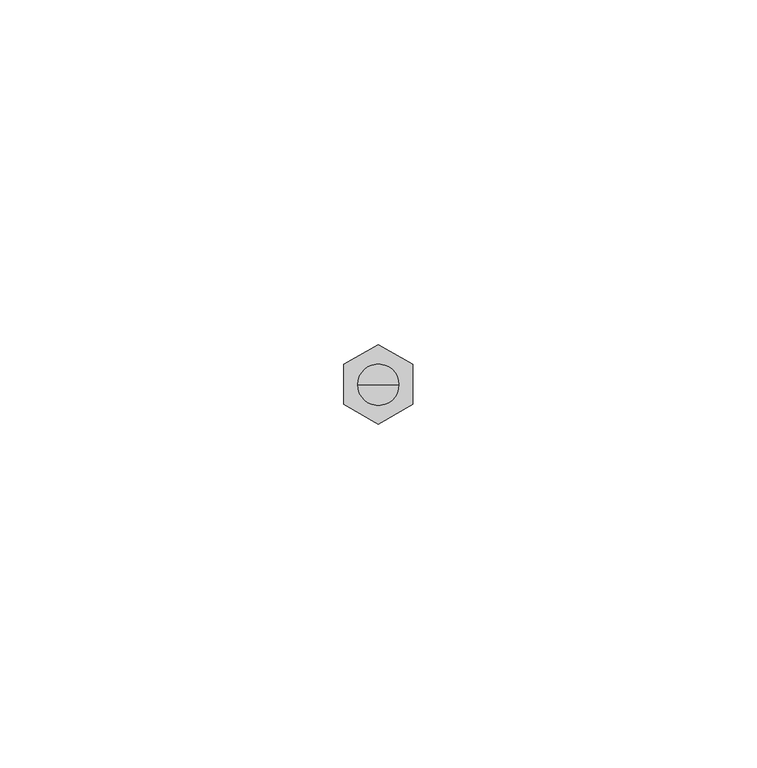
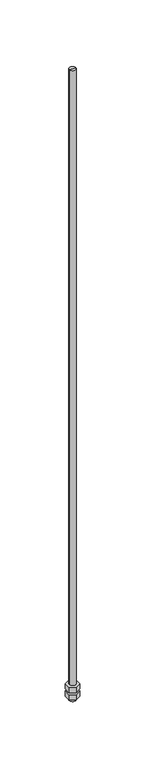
"""IFC4 building model written with IfcOpenShell, lengths in millimetres: proxy geometry, durlum_threaded_rod_M6 : durlum_threaded_rod_M6."""

from ifc_helpers import new_model, si_unit, frame, origin, origin_with_axes, place, context, project, spatial, polyline, circle_curve, outline, extrude, source, transform, mapped, element, save
from ifc_brep_helpers import plane_surface, cylinder_surface, advanced_brep


def generic_models_b1cdc258(model_context):
    return source(origin(), model_context, "Body", "SolidModel", [
        extrude(outline(polyline([(5.0, 3.0421914), (5.0, -2.7313113), (0.0, -5.6180626), (-5.0, -2.7313113), (-5.0, 3.0421914), (0.0, 5.9289428), (5.0, 3.0421914)])), frame((0.0, 0.0, -7.0), z_axis=(0.0, 0.0, 1.0), x_axis=(1.0, 0.0, 0.0)), (0.0, 0.0, 1.0), 5.0),
        extrude(outline(polyline([(5.0, 3.0421914), (5.0, -2.7313113), (0.0, -5.6180626), (-5.0, -2.7313113), (-5.0, 3.0421914), (0.0, 5.9289428), (5.0, 3.0421914)])), origin_with_axes(), (0.0, 0.0, 1.0), 5.0),
        advanced_brep(
        [(-3.0, 0.0, 598.0), (3.0, 0.0, 598.0), (3.0, 0.0, -10.0), (-3.0, 0.0, -10.0), (0.0, 0.0, 598.0), (0.0, 0.0, -10.0)],
        [
            (0, 1, circle_curve(frame((0.0, 0.0, 598.0), z_axis=(0.0, 0.0, -1.0), x_axis=(1.0, 0.0, 0.0)), 3.0)),
            (1, 2),
            (2, 3, circle_curve(frame((0.0, 0.0, -10.0), z_axis=(0.0, 0.0, 1.0), x_axis=(1.0, 0.0, 0.0)), 3.0)),
            (3, 0),
            (1, 0, circle_curve(frame((0.0, 0.0, 598.0), z_axis=(0.0, 0.0, -1.0), x_axis=(1.0, 0.0, 0.0)), 3.0)),
            (3, 2, circle_curve(frame((0.0, 0.0, -10.0), z_axis=(0.0, 0.0, 1.0), x_axis=(1.0, 0.0, 0.0)), 3.0)),
            (4, 1),
            (0, 4),
            (2, 5),
            (5, 3),
        ],
        [
            cylinder_surface(frame((0.0, 0.0, -675.0), z_axis=(0.0, 0.0, 1.0), x_axis=(1.0, 0.0, 0.0)), 3.0),
            plane_surface(frame((0.0, 0.0, 598.0), z_axis=(0.0, 0.0, 1.0), x_axis=(1.0, 0.0, 0.0))),
            plane_surface(frame((0.0, 0.0, -10.0), z_axis=(0.0, 0.0, -1.0), x_axis=(1.0, 0.0, 0.0))),
        ],
        [
            (0, [[1, 2, 3, 4]]),
            (0, [[5, -4, 6, -2]]),
            (1, [[7, -1, 8]]),
            (1, [[-8, -5, -7]]),
            (2, [[-3, 9, 10]]),
            (2, [[-6, -10, -9]]),
        ],
    ),
    ])


if __name__ == "__main__":
    model = new_model("IFC4")
    model_context = context("Model", 3, world=origin())
    ifc_project = project(units=[si_unit("LENGTHUNIT", "METRE", prefix="MILLI")], contexts=[model_context])
    site = spatial("IfcSite", under=ifc_project)
    building = spatial("IfcBuilding", under=site)
    placement = place(None, origin())
    generic_models_shape = generic_models_b1cdc258(model_context)
    element("IfcBuildingElementProxy", 1, Name="durlum_threaded_rod_M6 : durlum_threaded_rod_M6", ObjectType="durlum_threaded_rod_M6 : durlum_threaded_rod_M6", at=placement, inside=building, context=model_context, shape_type="MappedRepresentation", body=[
        mapped(generic_models_shape, transform((0.0, 0.0, 0.0), x_axis=(1.0, 0.0, 0.0), y_axis=(0.0, 1.0, 0.0), z_axis=(0.0, 0.0, 1.0))),
    ])
    save(model, "model.ifc")
